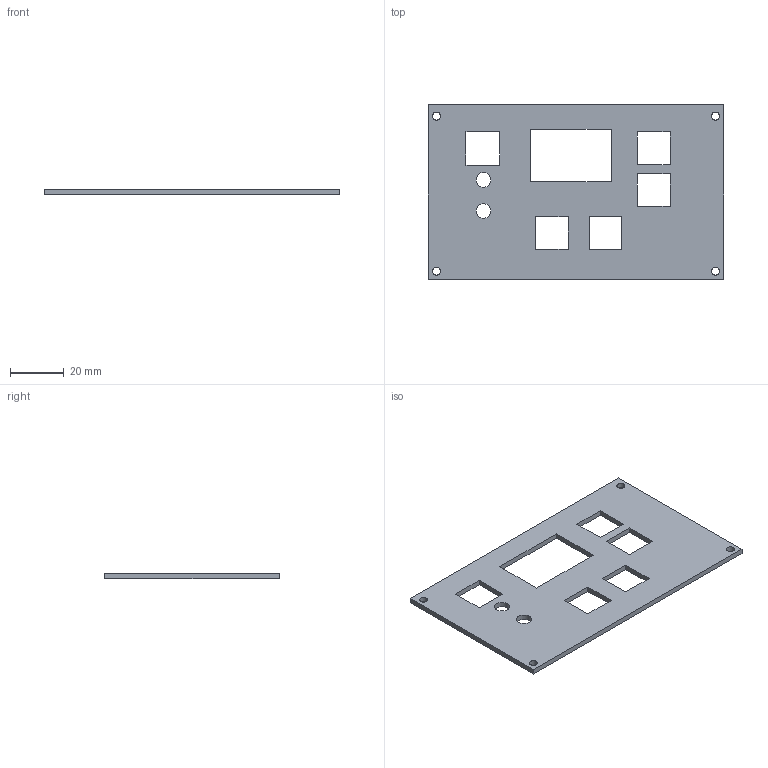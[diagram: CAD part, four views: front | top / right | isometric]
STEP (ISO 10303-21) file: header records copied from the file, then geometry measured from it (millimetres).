
FILE_DESCRIPTION(/* description */ (''),/* implementation_level */ '2;1');
FILE_NAME(/* name */ 'CAD Zeichnung',/* time_stamp */ '2018-04-16T14:24:35+02:00',/* author */ (''),/* organization */ (''),/* preprocessor_version */ 'ST-DEVELOPER v15',/* originating_system */ 'MicroStation Version 08.11.09.833',/* authorisation */ '');
FILE_SCHEMA (('AUTOMOTIVE_DESIGN'));
Length unit declared in the file: millimetre
Products named in the file (1): CAD Zeichnung1
Bounding box: 110 x 65 x 2 mm (x, y, z)
Volume: 11475.2 mm3; surface area: 13008.1 mm2
Topology: 1 solids, 1 shells, 36 faces, 108 edges, 74 vertices
Faces by surface type: plane 30, cylinder 6
Full cylindrical faces by diameter (mm): 3 x4, 5.5 x2
Entity records: 1205 total; most frequent: CARTESIAN_POINT 201, ORIENTED_EDGE 192, DIRECTION 182, EDGE_CURVE 96, VECTOR 84, LINE 84, VERTEX_POINT 68, EDGE_LOOP 66
